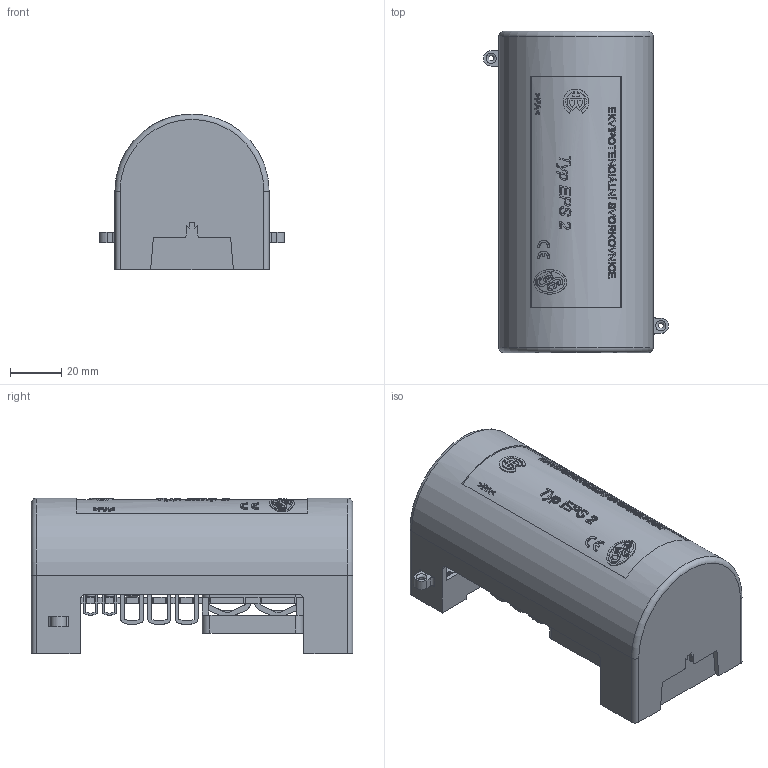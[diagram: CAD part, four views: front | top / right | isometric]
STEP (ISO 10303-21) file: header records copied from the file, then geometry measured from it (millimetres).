
FILE_DESCRIPTION(/* description */ ('Unknown'),/* implementation_level */ '2;1');
FILE_NAME(/* name */ 'EPS 2_kryt',/* time_stamp */ '2021-08-09T11:51:48+02:00',/* author */ ('Unknown'),/* organization */ ('Unknown'),/* preprocessor_version */ 'ST-DEVELOPER v16.7',/* originating_system */ 'Solid Edge',/* authorisation */ 'Unknown');
FILE_SCHEMA (('AUTOMOTIVE_DESIGN {1 0 10303 214 3 1 1}'));
Products named in the file (1): EPS 2_kryt
Bounding box: 72 x 125 x 60.5 mm (x, y, z)
Volume: 82810.5 mm3; surface area: 84948.3 mm2
Topology: 1 solids, 1 shells, 2558 faces, 7105 edges, 4679 vertices
Faces by surface type: plane 1818, cylinder 569, bspline 119, cone 30, torus 22
Full cylindrical faces by diameter (mm): 2 x2, 2.2 x2, 3.5 x16, 3.6 x4, 4.8 x6, 5 x22, 6 x4, 8 x8, 8.5 x6, 10 x2, 13 x2
Entity records: 104695 total; most frequent: CARTESIAN_POINT 21657, ORIENTED_EDGE 13826, DIRECTION 12761, EDGE_CURVE 6913, LINE 5173, VECTOR 5173, VERTEX_POINT 4622, AXIS2_PLACEMENT_3D 3794
